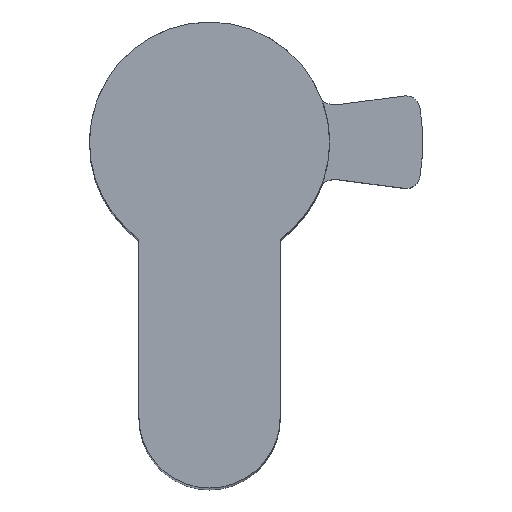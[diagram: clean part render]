
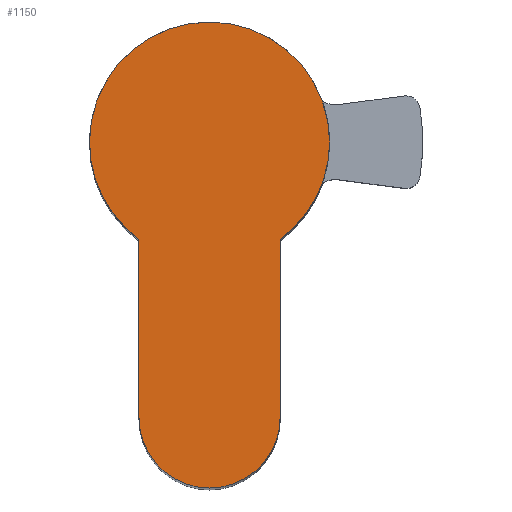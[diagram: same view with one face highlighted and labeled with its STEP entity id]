
A CAD part, top view. The second image highlights one B-rep face of the part: STEP entity #1150.
In plain terms, the highlighted planar face has unit normal (0, 0, 1).
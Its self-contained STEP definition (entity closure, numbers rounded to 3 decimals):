
#71 = DIRECTION ( 'NONE',  ( 0., 1., 0. ) ) ;
#108 = CARTESIAN_POINT ( 'NONE',  ( 0., -19.5, 10. ) ) ;
#113 = AXIS2_PLACEMENT_3D ( 'NONE', #1285, #1020, #689 ) ;
#114 = CARTESIAN_POINT ( 'NONE',  ( -5., -19.5, 10. ) ) ;
#116 = PLANE ( 'NONE',  #343 ) ;
#118 = ORIENTED_EDGE ( 'NONE', *, *, #127, .T. ) ;
#120 = ORIENTED_EDGE ( 'NONE', *, *, #1406, .T. ) ;
#127 = EDGE_CURVE ( 'NONE', #544, #1297, #1387, .T. ) ;
#179 = CARTESIAN_POINT ( 'NONE',  ( 0., 0., 10. ) ) ;
#234 = CARTESIAN_POINT ( 'NONE',  ( -8.5, 0., 10. ) ) ;
#280 = DIRECTION ( 'NONE',  ( 1., 0., 0. ) ) ;
#286 = EDGE_CURVE ( 'NONE', #1297, #1363, #750, .T. ) ;
#343 = AXIS2_PLACEMENT_3D ( 'NONE', #966, #1070, #381 ) ;
#381 = DIRECTION ( 'NONE',  ( 1., 0., 0. ) ) ;
#403 = EDGE_CURVE ( 'NONE', #1363, #919, #1061, .T. ) ;
#417 = DIRECTION ( 'NONE',  ( 0., 0., 1. ) ) ;
#520 = ORIENTED_EDGE ( 'NONE', *, *, #403, .T. ) ;
#544 = VERTEX_POINT ( 'NONE', #114 ) ;
#577 = DIRECTION ( 'NONE',  ( 0., 0., 1. ) ) ;
#585 = EDGE_LOOP ( 'NONE', ( #520, #1004, #120, #1248, #118, #737 ) ) ;
#586 = FACE_OUTER_BOUND ( 'NONE', #585, .T. ) ;
#602 = AXIS2_PLACEMENT_3D ( 'NONE', #179, #1214, #619 ) ;
#619 = DIRECTION ( 'NONE',  ( 1., 0., 0. ) ) ;
#689 = DIRECTION ( 'NONE',  ( 1., 0., 0. ) ) ;
#737 = ORIENTED_EDGE ( 'NONE', *, *, #286, .T. ) ;
#746 = CARTESIAN_POINT ( 'NONE',  ( -5., -6.874, 10. ) ) ;
#750 = LINE ( 'NONE', #881, #1145 ) ;
#763 = VERTEX_POINT ( 'NONE', #234 ) ;
#810 = VERTEX_POINT ( 'NONE', #953 ) ;
#881 = CARTESIAN_POINT ( 'NONE',  ( 5., -19.5, 10. ) ) ;
#919 = VERTEX_POINT ( 'NONE', #1461 ) ;
#953 = CARTESIAN_POINT ( 'NONE',  ( -5., -6.874, 10. ) ) ;
#966 = CARTESIAN_POINT ( 'NONE',  ( 0., 0., 10. ) ) ;
#985 = CIRCLE ( 'NONE', #1325, 8.5 ) ;
#1001 = EDGE_CURVE ( 'NONE', #919, #763, #985, .T. ) ;
#1004 = ORIENTED_EDGE ( 'NONE', *, *, #1001, .T. ) ;
#1005 = CARTESIAN_POINT ( 'NONE',  ( 0., 0., 10. ) ) ;
#1020 = DIRECTION ( 'NONE',  ( 0., 0., 1. ) ) ;
#1054 = VECTOR ( 'NONE', #1462, 1000. ) ;
#1055 = DIRECTION ( 'NONE',  ( 1., 0., 0. ) ) ;
#1061 = CIRCLE ( 'NONE', #113, 8.5 ) ;
#1070 = DIRECTION ( 'NONE',  ( 0., 0., 1. ) ) ;
#1078 = CIRCLE ( 'NONE', #602, 8.5 ) ;
#1145 = VECTOR ( 'NONE', #71, 1000. ) ;
#1150 = ADVANCED_FACE ( 'NONE', ( #586 ), #116, .T. ) ;
#1154 = CARTESIAN_POINT ( 'NONE',  ( 5., -19.5, 10. ) ) ;
#1214 = DIRECTION ( 'NONE',  ( 0., 0., 1. ) ) ;
#1248 = ORIENTED_EDGE ( 'NONE', *, *, #1371, .T. ) ;
#1285 = CARTESIAN_POINT ( 'NONE',  ( 0., 0., 10. ) ) ;
#1293 = AXIS2_PLACEMENT_3D ( 'NONE', #108, #577, #1055 ) ;
#1297 = VERTEX_POINT ( 'NONE', #1154 ) ;
#1325 = AXIS2_PLACEMENT_3D ( 'NONE', #1005, #417, #280 ) ;
#1326 = CARTESIAN_POINT ( 'NONE',  ( 5., -6.874, 10. ) ) ;
#1354 = LINE ( 'NONE', #746, #1054 ) ;
#1363 = VERTEX_POINT ( 'NONE', #1326 ) ;
#1371 = EDGE_CURVE ( 'NONE', #810, #544, #1354, .T. ) ;
#1387 = CIRCLE ( 'NONE', #1293, 5. ) ;
#1406 = EDGE_CURVE ( 'NONE', #763, #810, #1078, .T. ) ;
#1461 = CARTESIAN_POINT ( 'NONE',  ( 8.5, 0., 10. ) ) ;
#1462 = DIRECTION ( 'NONE',  ( 0., -1., 0. ) ) ;
